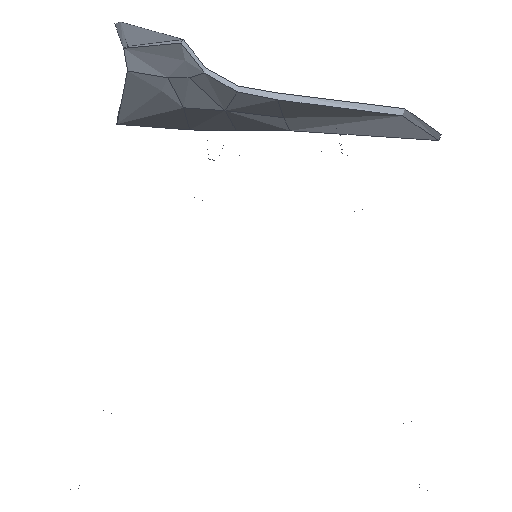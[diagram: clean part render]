
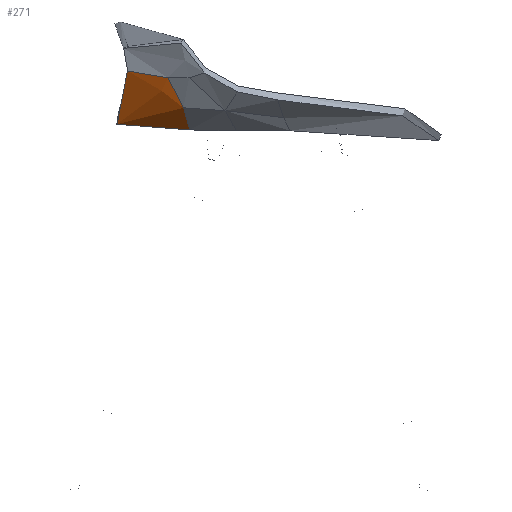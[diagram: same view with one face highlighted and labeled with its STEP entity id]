
A CAD part, left-side view. The second image highlights one B-rep face of the part: STEP entity #271.
In plain terms, the highlighted free-form (B-spline) face has degree [3, 3] with [8, 7] control points.
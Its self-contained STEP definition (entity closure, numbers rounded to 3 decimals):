
#271=ADVANCED_FACE('',(#377),#1556,.T.);
#377=FACE_OUTER_BOUND('',#483,.T.);
#483=EDGE_LOOP('',(#703,#704,#705,#706,#707));
#703=ORIENTED_EDGE('',*,*,#1088,.T.);
#704=ORIENTED_EDGE('',*,*,#1093,.F.);
#705=ORIENTED_EDGE('',*,*,#1097,.T.);
#706=ORIENTED_EDGE('',*,*,#1096,.F.);
#707=ORIENTED_EDGE('',*,*,#1089,.F.);
#1088=EDGE_CURVE('',#1417,#1427,#1326,.T.);
#1089=EDGE_CURVE('',#1417,#1418,#1327,.T.);
#1093=EDGE_CURVE('',#1431,#1427,#1331,.T.);
#1096=EDGE_CURVE('',#1418,#1424,#1334,.T.);
#1097=EDGE_CURVE('',#1431,#1424,#1335,.T.);
#1326=B_SPLINE_CURVE_WITH_KNOTS('',3,(#8377,#8378,#8379,#8380,#8381,#8382,
#8383,#8384),.UNSPECIFIED.,.F.,.F.,(4,1,3,4),(-1.,-0.667,-0.333,
0.),.UNSPECIFIED.);
#1327=B_SPLINE_CURVE_WITH_KNOTS('',3,(#8385,#8386,#8387,#8388,#8389,#8390,
#8391,#8392,#8393),.UNSPECIFIED.,.F.,.F.,(4,1,1,1,1,1,4),(-1.,-0.75,-0.5,
-0.375,-0.25,-0.125,0.),.UNSPECIFIED.);
#1331=B_SPLINE_CURVE_WITH_KNOTS('',3,(#8421,#8422,#8423,#8424,#8425,#8426,
#8427),.UNSPECIFIED.,.F.,.F.,(4,1,1,1,4),(-1.,-0.75,-0.5,-0.25,0.),
 .UNSPECIFIED.);
#1334=B_SPLINE_CURVE_WITH_KNOTS('',3,(#8446,#8447,#8448,#8449,#8450,#8451,
#8452,#8453,#8454),.UNSPECIFIED.,.F.,.F.,(4,1,1,1,1,1,4),(-1.,-0.875,-0.75,
-0.625,-0.5,-0.25,0.),.UNSPECIFIED.);
#1335=B_SPLINE_CURVE_WITH_KNOTS('',3,(#8455,#8456,#8457,#8458,#8459,#8460,
#8461,#8462),.UNSPECIFIED.,.F.,.F.,(4,3,1,4),(-1.,-0.667,-0.333,
0.),.UNSPECIFIED.);
#1417=VERTEX_POINT('',#7639);
#1418=VERTEX_POINT('',#7640);
#1424=VERTEX_POINT('',#7646);
#1427=VERTEX_POINT('',#7649);
#1431=VERTEX_POINT('',#7653);
#1556=B_SPLINE_SURFACE_WITH_KNOTS('',3,3,((#5538,#5539,#5540,#5541,#5542,
#5543,#5544),(#5545,#5546,#5547,#5548,#5549,#5550,#5551),(#5552,#5553,#5554,
#5555,#5556,#5557,#5558),(#5559,#5560,#5561,#5562,#5563,#5564,#5565),(#5566,
#5567,#5568,#5569,#5570,#5571,#5572),(#5573,#5574,#5575,#5576,#5577,#5578,
#5579),(#5580,#5581,#5582,#5583,#5584,#5585,#5586),(#5587,#5588,#5589,#5590,
#5591,#5592,#5593)),.UNSPECIFIED.,.F.,.F.,.F.,(4,1,3,4),(4,1,1,1,4),(-2.,
-1.,0.,1.),(-2.,-1.,0.,1.,2.),.UNSPECIFIED.);
#5538=CARTESIAN_POINT('',(-221.75,141.453,520.63));
#5539=CARTESIAN_POINT('',(-219.235,138.069,514.161));
#5540=CARTESIAN_POINT('',(-213.581,130.629,500.993));
#5541=CARTESIAN_POINT('',(-201.883,120.779,482.274));
#5542=CARTESIAN_POINT('',(-185.627,115.57,466.317));
#5543=CARTESIAN_POINT('',(-172.377,114.221,458.154));
#5544=CARTESIAN_POINT('',(-165.306,113.836,454.85));
#5545=CARTESIAN_POINT('',(-220.903,146.316,521.035));
#5546=CARTESIAN_POINT('',(-218.509,143.299,514.704));
#5547=CARTESIAN_POINT('',(-213.148,136.763,501.844));
#5548=CARTESIAN_POINT('',(-201.89,128.295,483.372));
#5549=CARTESIAN_POINT('',(-185.919,124.009,467.127));
#5550=CARTESIAN_POINT('',(-172.74,123.081,458.644));
#5551=CARTESIAN_POINT('',(-165.671,122.884,455.206));
#5552=CARTESIAN_POINT('',(-219.102,156.168,522.165));
#5553=CARTESIAN_POINT('',(-216.952,153.839,516.117));
#5554=CARTESIAN_POINT('',(-212.148,148.935,503.843));
#5555=CARTESIAN_POINT('',(-201.722,142.886,485.778));
#5556=CARTESIAN_POINT('',(-186.365,140.184,468.941));
#5557=CARTESIAN_POINT('',(-173.38,140.04,459.812));
#5558=CARTESIAN_POINT('',(-166.336,140.24,456.09));
#5559=CARTESIAN_POINT('',(-217.198,165.405,523.669));
#5560=CARTESIAN_POINT('',(-215.278,163.642,517.901));
#5561=CARTESIAN_POINT('',(-210.961,160.034,506.143));
#5562=CARTESIAN_POINT('',(-201.256,155.928,488.37));
#5563=CARTESIAN_POINT('',(-186.523,154.684,470.987));
#5564=CARTESIAN_POINT('',(-173.804,155.416,461.251));
#5565=CARTESIAN_POINT('',(-166.833,156.087,457.245));
#5566=CARTESIAN_POINT('',(-216.246,169.653,524.449));
#5567=CARTESIAN_POINT('',(-214.435,168.137,518.814));
#5568=CARTESIAN_POINT('',(-210.342,165.095,507.295));
#5569=CARTESIAN_POINT('',(-200.965,161.895,489.652));
#5570=CARTESIAN_POINT('',(-186.527,161.448,472.028));
#5571=CARTESIAN_POINT('',(-173.951,162.692,462.013));
#5572=CARTESIAN_POINT('',(-167.031,163.626,457.871));
#5573=CARTESIAN_POINT('',(-214.343,178.15,526.009));
#5574=CARTESIAN_POINT('',(-212.749,177.126,520.641));
#5575=CARTESIAN_POINT('',(-209.104,175.216,509.599));
#5576=CARTESIAN_POINT('',(-200.384,173.829,492.218));
#5577=CARTESIAN_POINT('',(-186.533,174.977,474.11));
#5578=CARTESIAN_POINT('',(-174.244,177.244,463.538));
#5579=CARTESIAN_POINT('',(-167.427,178.705,459.122));
#5580=CARTESIAN_POINT('',(-212.443,185.165,527.683));
#5581=CARTESIAN_POINT('',(-211.039,184.484,522.553));
#5582=CARTESIAN_POINT('',(-207.763,183.382,511.911));
#5583=CARTESIAN_POINT('',(-199.574,183.546,494.731));
#5584=CARTESIAN_POINT('',(-186.238,186.566,476.266));
#5585=CARTESIAN_POINT('',(-174.278,190.149,465.232));
#5586=CARTESIAN_POINT('',(-167.621,192.249,460.567));
#5587=CARTESIAN_POINT('',(-210.543,192.181,529.356));
#5588=CARTESIAN_POINT('',(-209.328,191.843,524.465));
#5589=CARTESIAN_POINT('',(-206.421,191.548,514.223));
#5590=CARTESIAN_POINT('',(-198.764,193.263,497.245));
#5591=CARTESIAN_POINT('',(-185.943,198.155,478.422));
#5592=CARTESIAN_POINT('',(-174.312,203.053,466.927));
#5593=CARTESIAN_POINT('',(-167.815,205.792,462.013));
#7639=CARTESIAN_POINT('',(-221.75,141.453,520.63));
#7640=CARTESIAN_POINT('',(-201.123,121.553,482.734));
#7646=CARTESIAN_POINT('',(-165.306,113.836,454.85));
#7649=CARTESIAN_POINT('',(-210.543,192.181,529.356));
#7653=CARTESIAN_POINT('',(-167.815,205.792,462.013));
#8377=CARTESIAN_POINT('',(-221.75,141.453,520.63));
#8378=CARTESIAN_POINT('',(-220.903,146.316,521.035));
#8379=CARTESIAN_POINT('',(-219.102,156.168,522.165));
#8380=CARTESIAN_POINT('',(-217.198,165.405,523.669));
#8381=CARTESIAN_POINT('',(-216.246,169.653,524.449));
#8382=CARTESIAN_POINT('',(-214.343,178.15,526.009));
#8383=CARTESIAN_POINT('',(-212.443,185.165,527.683));
#8384=CARTESIAN_POINT('',(-210.543,192.181,529.356));
#8385=CARTESIAN_POINT('',(-221.75,141.453,520.63));
#8386=CARTESIAN_POINT('',(-220.493,139.761,517.396));
#8387=CARTESIAN_POINT('',(-217.822,136.209,510.869));
#8388=CARTESIAN_POINT('',(-213.953,131.695,502.747));
#8389=CARTESIAN_POINT('',(-210.456,128.248,496.378));
#8390=CARTESIAN_POINT('',(-207.611,125.797,491.693));
#8391=CARTESIAN_POINT('',(-204.523,123.532,487.126));
#8392=CARTESIAN_POINT('',(-202.288,122.18,484.179));
#8393=CARTESIAN_POINT('',(-201.123,121.553,482.734));
#8421=CARTESIAN_POINT('',(-167.815,205.792,462.013));
#8422=CARTESIAN_POINT('',(-174.312,203.053,466.927));
#8423=CARTESIAN_POINT('',(-185.943,198.155,478.422));
#8424=CARTESIAN_POINT('',(-198.764,193.263,497.245));
#8425=CARTESIAN_POINT('',(-206.421,191.548,514.223));
#8426=CARTESIAN_POINT('',(-209.328,191.843,524.465));
#8427=CARTESIAN_POINT('',(-210.543,192.181,529.356));
#8446=CARTESIAN_POINT('',(-201.123,121.553,482.734));
#8447=CARTESIAN_POINT('',(-199.959,120.925,481.29));
#8448=CARTESIAN_POINT('',(-197.534,119.767,478.457));
#8449=CARTESIAN_POINT('',(-193.627,118.297,474.397));
#8450=CARTESIAN_POINT('',(-189.465,117.071,470.538));
#8451=CARTESIAN_POINT('',(-183.594,115.733,465.684));
#8452=CARTESIAN_POINT('',(-175.69,114.559,460.195));
#8453=CARTESIAN_POINT('',(-168.841,114.029,456.502));
#8454=CARTESIAN_POINT('',(-165.306,113.836,454.85));
#8455=CARTESIAN_POINT('',(-167.815,205.792,462.013));
#8456=CARTESIAN_POINT('',(-167.621,192.249,460.567));
#8457=CARTESIAN_POINT('',(-167.427,178.705,459.122));
#8458=CARTESIAN_POINT('',(-167.031,163.626,457.871));
#8459=CARTESIAN_POINT('',(-166.833,156.087,457.245));
#8460=CARTESIAN_POINT('',(-166.336,140.24,456.09));
#8461=CARTESIAN_POINT('',(-165.671,122.884,455.206));
#8462=CARTESIAN_POINT('',(-165.306,113.836,454.85));
